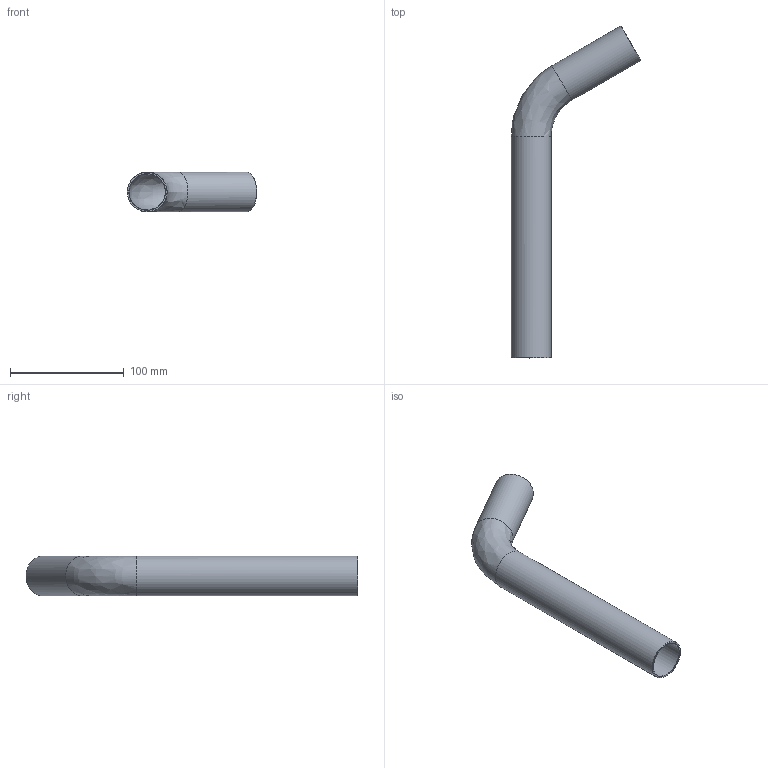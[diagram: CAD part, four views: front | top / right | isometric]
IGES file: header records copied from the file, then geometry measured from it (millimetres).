
Global section: file name: C72AG; native system: Autodesk Inventor 2023; preprocessor: unknown; author: lvalentini; date: 20230921.121017; units: millimetre
Bounding box: 113.66 x 291.56 x 35 mm (x, y, z)
Volume: 50987.6 mm3; surface area: 67971 mm2
Topology: 1 solids, 1 shells, 12 faces, 26 edges, 16 vertices
Faces by surface type: bspline 12
